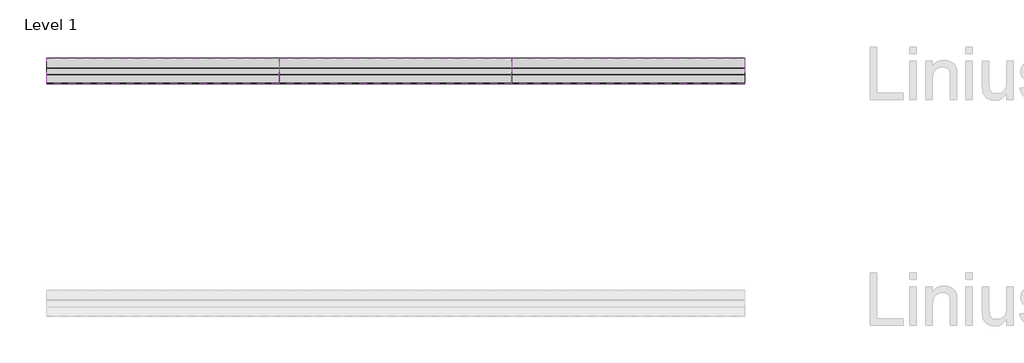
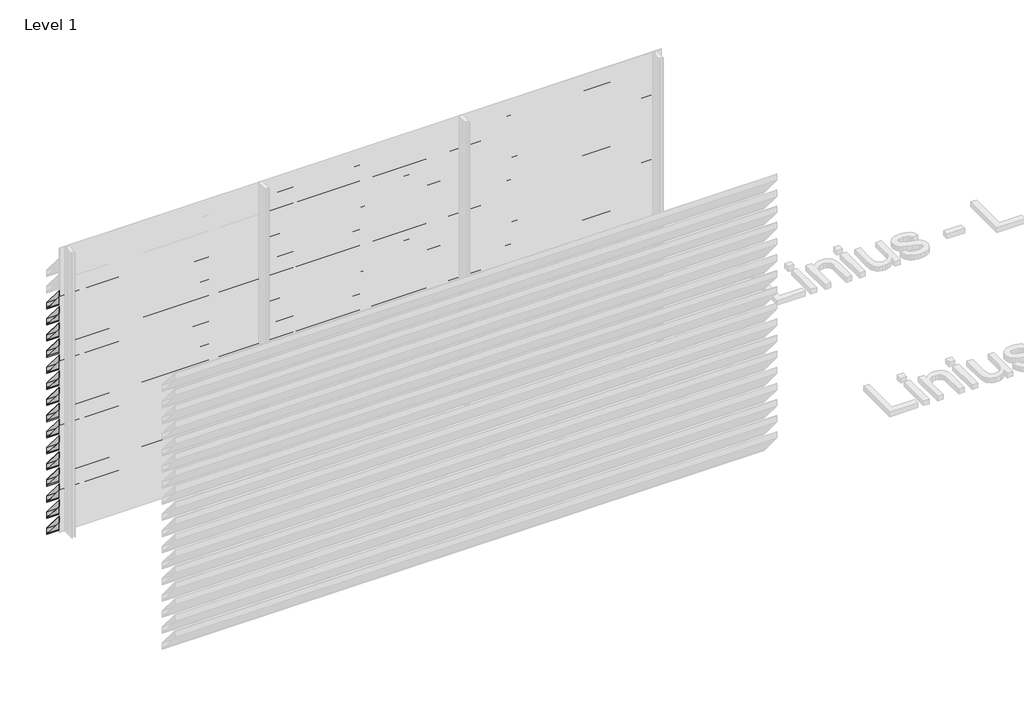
# One storey, part 11 of 121: 49 proxies.
"""IFC4 building model written with IfcOpenShell, lengths in millimetres."""

from ifc_helpers import new_model, si_unit, frame, origin, place, context, project, spatial, polyline, outline, extrude, element, save

model = new_model("IFC4")

# Units and contexts
model_context = context("Model", 3, world=origin())
ifc_project = project(units=[si_unit("LENGTHUNIT", "METRE", prefix="MILLI")], contexts=[model_context])

# Site, building, storey
site = spatial("IfcSite", under=ifc_project)
building = spatial("IfcBuilding", under=site)
storey = spatial("IfcBuildingStorey", under=building, Name="Level 1", Elevation=0.0)

# Proxies
placement = place(None, origin())
element("IfcBuildingElementProxy", 1, Name="Wall Sweeps", at=placement, inside=storey, context=model_context, shape_type="SweptSolid", body=[
    extrude(outline(polyline([(14205.0540136, 2291.0), (14205.0540136, 2222.0), (14202.5540136, 2223.1657691), (14202.5540136, 2236.7059843), (14185.8041465, 2256.6676986), (14175.1189071, 2256.6676986), (13983.0540136, 2485.5617253), (13983.0540136, 2550.0), (13987.7272091, 2550.0), (14205.0540136, 2291.0)]), holes=[polyline([(13986.8412246, 2548.1), (13984.9540136, 2548.1), (13984.9540136, 2486.2532688), (14176.0048916, 2258.5676986), (14186.6901311, 2258.5676986), (14203.1540136, 2238.9468074), (14203.1540136, 2290.3084566), (13986.8412246, 2548.1)])]), frame((466.6208097, 0.0, 0.0), z_axis=(1.0, 0.0, 0.0), x_axis=(0.0, 1.0, 0.0)), (0.0, 0.0, 1.0), 2000.0),
])
element("IfcBuildingElementProxy", 2, Name="Wall Sweeps", at=placement, inside=storey, context=model_context, shape_type="SweptSolid", body=[
    extrude(outline(polyline([(14205.0540136, 2121.0), (14205.0540136, 2052.0), (14202.5540136, 2053.1657691), (14202.5540136, 2066.7059843), (14185.8041465, 2086.6676986), (14175.1189071, 2086.6676986), (13983.0540136, 2315.5617253), (13983.0540136, 2380.0), (13987.7272091, 2380.0), (14205.0540136, 2121.0)]), holes=[polyline([(13986.8412246, 2378.1), (13984.9540136, 2378.1), (13984.9540136, 2316.2532688), (14176.0048916, 2088.5676986), (14186.6901311, 2088.5676986), (14203.1540136, 2068.9468074), (14203.1540136, 2120.3084566), (13986.8412246, 2378.1)])]), frame((466.6208097, 0.0, 0.0), z_axis=(1.0, 0.0, 0.0), x_axis=(0.0, 1.0, 0.0)), (0.0, 0.0, 1.0), 2000.0),
])
element("IfcBuildingElementProxy", 3, Name="Wall Sweeps", at=placement, inside=storey, context=model_context, shape_type="SweptSolid", body=[
    extrude(outline(polyline([(14205.0540136, 1951.0), (14205.0540136, 1882.0), (14202.5540136, 1883.1657691), (14202.5540136, 1896.7059843), (14185.8041465, 1916.6676986), (14175.1189071, 1916.6676986), (13983.0540136, 2145.5617253), (13983.0540136, 2210.0), (13987.7272091, 2210.0), (14205.0540136, 1951.0)]), holes=[polyline([(13986.8412246, 2208.1), (13984.9540136, 2208.1), (13984.9540136, 2146.2532688), (14176.0048916, 1918.5676986), (14186.6901311, 1918.5676986), (14203.1540136, 1898.9468074), (14203.1540136, 1950.3084566), (13986.8412246, 2208.1)])]), frame((466.6208097, 0.0, 0.0), z_axis=(1.0, 0.0, 0.0), x_axis=(0.0, 1.0, 0.0)), (0.0, 0.0, 1.0), 2000.0),
])
element("IfcBuildingElementProxy", 4, Name="Wall Sweeps", at=placement, inside=storey, context=model_context, shape_type="SweptSolid", body=[
    extrude(outline(polyline([(14205.0540136, 1781.0), (14205.0540136, 1712.0), (14202.5540136, 1713.1657691), (14202.5540136, 1726.7059843), (14185.8041465, 1746.6676986), (14175.1189071, 1746.6676986), (13983.0540136, 1975.5617253), (13983.0540136, 2040.0), (13987.7272091, 2040.0), (14205.0540136, 1781.0)]), holes=[polyline([(13986.8412246, 2038.1), (13984.9540136, 2038.1), (13984.9540136, 1976.2532688), (14176.0048916, 1748.5676986), (14186.6901311, 1748.5676986), (14203.1540136, 1728.9468074), (14203.1540136, 1780.3084566), (13986.8412246, 2038.1)])]), frame((466.6208097, 0.0, 0.0), z_axis=(1.0, 0.0, 0.0), x_axis=(0.0, 1.0, 0.0)), (0.0, 0.0, 1.0), 2000.0),
])
element("IfcBuildingElementProxy", 5, Name="Wall Sweeps", at=placement, inside=storey, context=model_context, shape_type="SweptSolid", body=[
    extrude(outline(polyline([(14205.0540136, 1611.0), (14205.0540136, 1542.0), (14202.5540136, 1543.1657691), (14202.5540136, 1556.7059843), (14185.8041465, 1576.6676986), (14175.1189071, 1576.6676986), (13983.0540136, 1805.5617253), (13983.0540136, 1870.0), (13987.7272091, 1870.0), (14205.0540136, 1611.0)]), holes=[polyline([(13986.8412246, 1868.1), (13984.9540136, 1868.1), (13984.9540136, 1806.2532688), (14176.0048916, 1578.5676986), (14186.6901311, 1578.5676986), (14203.1540136, 1558.9468074), (14203.1540136, 1610.3084566), (13986.8412246, 1868.1)])]), frame((466.6208097, 0.0, 0.0), z_axis=(1.0, 0.0, 0.0), x_axis=(0.0, 1.0, 0.0)), (0.0, 0.0, 1.0), 2000.0),
])
element("IfcBuildingElementProxy", 6, Name="Wall Sweeps", at=placement, inside=storey, context=model_context, shape_type="SweptSolid", body=[
    extrude(outline(polyline([(14205.0540136, 1441.0), (14205.0540136, 1372.0), (14202.5540136, 1373.1657691), (14202.5540136, 1386.7059843), (14185.8041465, 1406.6676986), (14175.1189071, 1406.6676986), (13983.0540136, 1635.5617253), (13983.0540136, 1700.0), (13987.7272091, 1700.0), (14205.0540136, 1441.0)]), holes=[polyline([(13986.8412246, 1698.1), (13984.9540136, 1698.1), (13984.9540136, 1636.2532688), (14176.0048916, 1408.5676986), (14186.6901311, 1408.5676986), (14203.1540136, 1388.9468074), (14203.1540136, 1440.3084566), (13986.8412246, 1698.1)])]), frame((466.6208097, 0.0, 0.0), z_axis=(1.0, 0.0, 0.0), x_axis=(0.0, 1.0, 0.0)), (0.0, 0.0, 1.0), 2000.0),
])
element("IfcBuildingElementProxy", 7, Name="Wall Sweeps", at=placement, inside=storey, context=model_context, shape_type="SweptSolid", body=[
    extrude(outline(polyline([(14205.0540136, 1271.0), (14205.0540136, 1202.0), (14202.5540136, 1203.1657691), (14202.5540136, 1216.7059843), (14185.8041465, 1236.6676986), (14175.1189071, 1236.6676986), (13983.0540136, 1465.5617253), (13983.0540136, 1530.0), (13987.7272091, 1530.0), (14205.0540136, 1271.0)]), holes=[polyline([(13986.8412246, 1528.1), (13984.9540136, 1528.1), (13984.9540136, 1466.2532688), (14176.0048916, 1238.5676986), (14186.6901311, 1238.5676986), (14203.1540136, 1218.9468074), (14203.1540136, 1270.3084566), (13986.8412246, 1528.1)])]), frame((466.6208097, 0.0, 0.0), z_axis=(1.0, 0.0, 0.0), x_axis=(0.0, 1.0, 0.0)), (0.0, 0.0, 1.0), 2000.0),
])
element("IfcBuildingElementProxy", 8, Name="Wall Sweeps", at=placement, inside=storey, context=model_context, shape_type="SweptSolid", body=[
    extrude(outline(polyline([(14205.0540136, 1101.0), (14205.0540136, 1032.0), (14202.5540136, 1033.1657691), (14202.5540136, 1046.7059843), (14185.8041465, 1066.6676986), (14175.1189071, 1066.6676986), (13983.0540136, 1295.5617253), (13983.0540136, 1360.0), (13987.7272091, 1360.0), (14205.0540136, 1101.0)]), holes=[polyline([(13986.8412246, 1358.1), (13984.9540136, 1358.1), (13984.9540136, 1296.2532688), (14176.0048916, 1068.5676986), (14186.6901311, 1068.5676986), (14203.1540136, 1048.9468074), (14203.1540136, 1100.3084566), (13986.8412246, 1358.1)])]), frame((466.6208097, 0.0, 0.0), z_axis=(1.0, 0.0, 0.0), x_axis=(0.0, 1.0, 0.0)), (0.0, 0.0, 1.0), 2000.0),
])
element("IfcBuildingElementProxy", 9, Name="Wall Sweeps", at=placement, inside=storey, context=model_context, shape_type="SweptSolid", body=[
    extrude(outline(polyline([(14205.0540136, 931.0), (14205.0540136, 862.0), (14202.5540136, 863.1657691), (14202.5540136, 876.7059843), (14185.8041465, 896.6676986), (14175.1189071, 896.6676986), (13983.0540136, 1125.5617253), (13983.0540136, 1190.0), (13987.7272091, 1190.0), (14205.0540136, 931.0)]), holes=[polyline([(13986.8412246, 1188.1), (13984.9540136, 1188.1), (13984.9540136, 1126.2532688), (14176.0048916, 898.5676986), (14186.6901311, 898.5676986), (14203.1540136, 878.9468074), (14203.1540136, 930.3084566), (13986.8412246, 1188.1)])]), frame((466.6208097, 0.0, 0.0), z_axis=(1.0, 0.0, 0.0), x_axis=(0.0, 1.0, 0.0)), (0.0, 0.0, 1.0), 2000.0),
])
element("IfcBuildingElementProxy", 10, Name="Wall Sweeps", at=placement, inside=storey, context=model_context, shape_type="SweptSolid", body=[
    extrude(outline(polyline([(14205.0540136, 761.0), (14205.0540136, 692.0), (14202.5540136, 693.1657691), (14202.5540136, 706.7059843), (14185.8041465, 726.6676986), (14175.1189071, 726.6676986), (13983.0540136, 955.5617253), (13983.0540136, 1020.0), (13987.7272091, 1020.0), (14205.0540136, 761.0)]), holes=[polyline([(13986.8412246, 1018.1), (13984.9540136, 1018.1), (13984.9540136, 956.2532688), (14176.0048916, 728.5676986), (14186.6901311, 728.5676986), (14203.1540136, 708.9468074), (14203.1540136, 760.3084566), (13986.8412246, 1018.1)])]), frame((466.6208097, 0.0, 0.0), z_axis=(1.0, 0.0, 0.0), x_axis=(0.0, 1.0, 0.0)), (0.0, 0.0, 1.0), 2000.0),
])
element("IfcBuildingElementProxy", 11, Name="Wall Sweeps", at=placement, inside=storey, context=model_context, shape_type="SweptSolid", body=[
    extrude(outline(polyline([(14205.0540136, 591.0), (14205.0540136, 522.0), (14202.5540136, 523.1657691), (14202.5540136, 536.7059843), (14185.8041465, 556.6676986), (14175.1189071, 556.6676986), (13983.0540136, 785.5617253), (13983.0540136, 850.0), (13987.7272091, 850.0), (14205.0540136, 591.0)]), holes=[polyline([(13986.8412246, 848.1), (13984.9540136, 848.1), (13984.9540136, 786.2532688), (14176.0048916, 558.5676986), (14186.6901311, 558.5676986), (14203.1540136, 538.9468074), (14203.1540136, 590.3084566), (13986.8412246, 848.1)])]), frame((466.6208097, 0.0, 0.0), z_axis=(1.0, 0.0, 0.0), x_axis=(0.0, 1.0, 0.0)), (0.0, 0.0, 1.0), 2000.0),
])
element("IfcBuildingElementProxy", 12, Name="Wall Sweeps", at=placement, inside=storey, context=model_context, shape_type="SweptSolid", body=[
    extrude(outline(polyline([(14205.0540136, 421.0), (14205.0540136, 352.0), (14202.5540136, 353.1657691), (14202.5540136, 366.7059843), (14185.8041465, 386.6676986), (14175.1189071, 386.6676986), (13983.0540136, 615.5617253), (13983.0540136, 680.0), (13987.7272091, 680.0), (14205.0540136, 421.0)]), holes=[polyline([(13986.8412246, 678.1), (13984.9540136, 678.1), (13984.9540136, 616.2532688), (14176.0048916, 388.5676986), (14186.6901311, 388.5676986), (14203.1540136, 368.9468074), (14203.1540136, 420.3084566), (13986.8412246, 678.1)])]), frame((466.6208097, 0.0, 0.0), z_axis=(1.0, 0.0, 0.0), x_axis=(0.0, 1.0, 0.0)), (0.0, 0.0, 1.0), 2000.0),
])
element("IfcBuildingElementProxy", 13, Name="Wall Sweeps", at=placement, inside=storey, context=model_context, shape_type="SweptSolid", body=[
    extrude(outline(polyline([(14205.0540136, 251.0), (14205.0540136, 182.0), (14202.5540136, 183.1657691), (14202.5540136, 196.7059843), (14185.8041465, 216.6676986), (14175.1189071, 216.6676986), (13983.0540136, 445.5617253), (13983.0540136, 510.0), (13987.7272091, 510.0), (14205.0540136, 251.0)]), holes=[polyline([(13986.8412246, 508.1), (13984.9540136, 508.1), (13984.9540136, 446.2532688), (14176.0048916, 218.5676986), (14186.6901311, 218.5676986), (14203.1540136, 198.9468074), (14203.1540136, 250.3084566), (13986.8412246, 508.1)])]), frame((466.6208097, 0.0, 0.0), z_axis=(1.0, 0.0, 0.0), x_axis=(0.0, 1.0, 0.0)), (0.0, 0.0, 1.0), 2000.0),
])
element("IfcBuildingElementProxy", 14, Name="Wall Sweeps", at=placement, inside=storey, context=model_context, shape_type="SweptSolid", body=[
    extrude(outline(polyline([(14205.0540136, 81.0), (14205.0540136, 12.0), (14202.5540136, 13.1657691), (14202.5540136, 26.7059843), (14185.8041465, 46.6676986), (14175.1189071, 46.6676986), (13983.0540136, 275.5617253), (13983.0540136, 340.0), (13987.7272091, 340.0), (14205.0540136, 81.0)]), holes=[polyline([(13986.8412246, 338.1), (13984.9540136, 338.1), (13984.9540136, 276.2532688), (14176.0048916, 48.5676986), (14186.6901311, 48.5676986), (14203.1540136, 28.9468074), (14203.1540136, 80.3084566), (13986.8412246, 338.1)])]), frame((466.6208097, 0.0, 0.0), z_axis=(1.0, 0.0, 0.0), x_axis=(0.0, 1.0, 0.0)), (0.0, 0.0, 1.0), 2000.0),
])
element("IfcBuildingElementProxy", 15, Name="Wall Sweeps", at=placement, inside=storey, context=model_context, shape_type="SweptSolid", body=[
    extrude(outline(polyline([(14205.0540136, -89.0), (14205.0540136, -158.0), (14202.5540136, -156.8342309), (14202.5540136, -143.2940157), (14185.8041465, -123.3323014), (14175.1189071, -123.3323014), (13983.0540136, 105.5617253), (13983.0540136, 170.0), (13987.7272091, 170.0), (14205.0540136, -89.0)]), holes=[polyline([(13986.8412246, 168.1), (13984.9540136, 168.1), (13984.9540136, 106.2532688), (14176.0048916, -121.4323014), (14186.6901311, -121.4323014), (14203.1540136, -141.0531926), (14203.1540136, -89.6915434), (13986.8412246, 168.1)])]), frame((466.6208097, 0.0, 0.0), z_axis=(1.0, 0.0, 0.0), x_axis=(0.0, 1.0, 0.0)), (0.0, 0.0, 1.0), 2000.0),
])
element("IfcBuildingElementProxy", 16, Name="Wall Sweeps", at=placement, inside=storey, context=model_context, shape_type="SweptSolid", body=[
    extrude(outline(polyline([(14205.0540136, 2631.0), (14205.0540136, 2562.0), (14202.5540136, 2563.1657691), (14202.5540136, 2576.7059843), (14185.8041465, 2596.6676986), (14175.1189071, 2596.6676986), (13983.0540136, 2825.5617253), (13983.0540136, 2890.0), (13987.7272091, 2890.0), (14205.0540136, 2631.0)]), holes=[polyline([(13986.8412246, 2888.1), (13984.9540136, 2888.1), (13984.9540136, 2826.2532688), (14176.0048916, 2598.5676986), (14186.6901311, 2598.5676986), (14203.1540136, 2578.9468074), (14203.1540136, 2630.3084566), (13986.8412246, 2888.1)])]), frame((2466.6208097, 0.0, 0.0), z_axis=(1.0, 0.0, 0.0), x_axis=(0.0, 1.0, 0.0)), (0.0, 0.0, 1.0), 2000.0),
])
element("IfcBuildingElementProxy", 17, Name="Wall Sweeps", at=placement, inside=storey, context=model_context, shape_type="SweptSolid", body=[
    extrude(outline(polyline([(14205.0540136, 2461.0), (14205.0540136, 2392.0), (14202.5540136, 2393.1657691), (14202.5540136, 2406.7059843), (14185.8041465, 2426.6676986), (14175.1189071, 2426.6676986), (13983.0540136, 2655.5617253), (13983.0540136, 2720.0), (13987.7272091, 2720.0), (14205.0540136, 2461.0)]), holes=[polyline([(13986.8412246, 2718.1), (13984.9540136, 2718.1), (13984.9540136, 2656.2532688), (14176.0048916, 2428.5676986), (14186.6901311, 2428.5676986), (14203.1540136, 2408.9468074), (14203.1540136, 2460.3084566), (13986.8412246, 2718.1)])]), frame((2466.6208097, 0.0, 0.0), z_axis=(1.0, 0.0, 0.0), x_axis=(0.0, 1.0, 0.0)), (0.0, 0.0, 1.0), 2000.0),
])
element("IfcBuildingElementProxy", 18, Name="Wall Sweeps", at=placement, inside=storey, context=model_context, shape_type="SweptSolid", body=[
    extrude(outline(polyline([(14205.0540136, 2291.0), (14205.0540136, 2222.0), (14202.5540136, 2223.1657691), (14202.5540136, 2236.7059843), (14185.8041465, 2256.6676986), (14175.1189071, 2256.6676986), (13983.0540136, 2485.5617253), (13983.0540136, 2550.0), (13987.7272091, 2550.0), (14205.0540136, 2291.0)]), holes=[polyline([(13986.8412246, 2548.1), (13984.9540136, 2548.1), (13984.9540136, 2486.2532688), (14176.0048916, 2258.5676986), (14186.6901311, 2258.5676986), (14203.1540136, 2238.9468074), (14203.1540136, 2290.3084566), (13986.8412246, 2548.1)])]), frame((2466.6208097, 0.0, 0.0), z_axis=(1.0, 0.0, 0.0), x_axis=(0.0, 1.0, 0.0)), (0.0, 0.0, 1.0), 2000.0),
])
element("IfcBuildingElementProxy", 19, Name="Wall Sweeps", at=placement, inside=storey, context=model_context, shape_type="SweptSolid", body=[
    extrude(outline(polyline([(14205.0540136, 2121.0), (14205.0540136, 2052.0), (14202.5540136, 2053.1657691), (14202.5540136, 2066.7059843), (14185.8041465, 2086.6676986), (14175.1189071, 2086.6676986), (13983.0540136, 2315.5617253), (13983.0540136, 2380.0), (13987.7272091, 2380.0), (14205.0540136, 2121.0)]), holes=[polyline([(13986.8412246, 2378.1), (13984.9540136, 2378.1), (13984.9540136, 2316.2532688), (14176.0048916, 2088.5676986), (14186.6901311, 2088.5676986), (14203.1540136, 2068.9468074), (14203.1540136, 2120.3084566), (13986.8412246, 2378.1)])]), frame((2466.6208097, 0.0, 0.0), z_axis=(1.0, 0.0, 0.0), x_axis=(0.0, 1.0, 0.0)), (0.0, 0.0, 1.0), 2000.0),
])
element("IfcBuildingElementProxy", 20, Name="Wall Sweeps", at=placement, inside=storey, context=model_context, shape_type="SweptSolid", body=[
    extrude(outline(polyline([(14205.0540136, 1951.0), (14205.0540136, 1882.0), (14202.5540136, 1883.1657691), (14202.5540136, 1896.7059843), (14185.8041465, 1916.6676986), (14175.1189071, 1916.6676986), (13983.0540136, 2145.5617253), (13983.0540136, 2210.0), (13987.7272091, 2210.0), (14205.0540136, 1951.0)]), holes=[polyline([(13986.8412246, 2208.1), (13984.9540136, 2208.1), (13984.9540136, 2146.2532688), (14176.0048916, 1918.5676986), (14186.6901311, 1918.5676986), (14203.1540136, 1898.9468074), (14203.1540136, 1950.3084566), (13986.8412246, 2208.1)])]), frame((2466.6208097, 0.0, 0.0), z_axis=(1.0, 0.0, 0.0), x_axis=(0.0, 1.0, 0.0)), (0.0, 0.0, 1.0), 2000.0),
])
element("IfcBuildingElementProxy", 21, Name="Wall Sweeps", at=placement, inside=storey, context=model_context, shape_type="SweptSolid", body=[
    extrude(outline(polyline([(14205.0540136, 1781.0), (14205.0540136, 1712.0), (14202.5540136, 1713.1657691), (14202.5540136, 1726.7059843), (14185.8041465, 1746.6676986), (14175.1189071, 1746.6676986), (13983.0540136, 1975.5617253), (13983.0540136, 2040.0), (13987.7272091, 2040.0), (14205.0540136, 1781.0)]), holes=[polyline([(13986.8412246, 2038.1), (13984.9540136, 2038.1), (13984.9540136, 1976.2532688), (14176.0048916, 1748.5676986), (14186.6901311, 1748.5676986), (14203.1540136, 1728.9468074), (14203.1540136, 1780.3084566), (13986.8412246, 2038.1)])]), frame((2466.6208097, 0.0, 0.0), z_axis=(1.0, 0.0, 0.0), x_axis=(0.0, 1.0, 0.0)), (0.0, 0.0, 1.0), 2000.0),
])
element("IfcBuildingElementProxy", 22, Name="Wall Sweeps", at=placement, inside=storey, context=model_context, shape_type="SweptSolid", body=[
    extrude(outline(polyline([(14205.0540136, 1611.0), (14205.0540136, 1542.0), (14202.5540136, 1543.1657691), (14202.5540136, 1556.7059843), (14185.8041465, 1576.6676986), (14175.1189071, 1576.6676986), (13983.0540136, 1805.5617253), (13983.0540136, 1870.0), (13987.7272091, 1870.0), (14205.0540136, 1611.0)]), holes=[polyline([(13986.8412246, 1868.1), (13984.9540136, 1868.1), (13984.9540136, 1806.2532688), (14176.0048916, 1578.5676986), (14186.6901311, 1578.5676986), (14203.1540136, 1558.9468074), (14203.1540136, 1610.3084566), (13986.8412246, 1868.1)])]), frame((2466.6208097, 0.0, 0.0), z_axis=(1.0, 0.0, 0.0), x_axis=(0.0, 1.0, 0.0)), (0.0, 0.0, 1.0), 2000.0),
])
element("IfcBuildingElementProxy", 23, Name="Wall Sweeps", at=placement, inside=storey, context=model_context, shape_type="SweptSolid", body=[
    extrude(outline(polyline([(14205.0540136, 1441.0), (14205.0540136, 1372.0), (14202.5540136, 1373.1657691), (14202.5540136, 1386.7059843), (14185.8041465, 1406.6676986), (14175.1189071, 1406.6676986), (13983.0540136, 1635.5617253), (13983.0540136, 1700.0), (13987.7272091, 1700.0), (14205.0540136, 1441.0)]), holes=[polyline([(13986.8412246, 1698.1), (13984.9540136, 1698.1), (13984.9540136, 1636.2532688), (14176.0048916, 1408.5676986), (14186.6901311, 1408.5676986), (14203.1540136, 1388.9468074), (14203.1540136, 1440.3084566), (13986.8412246, 1698.1)])]), frame((2466.6208097, 0.0, 0.0), z_axis=(1.0, 0.0, 0.0), x_axis=(0.0, 1.0, 0.0)), (0.0, 0.0, 1.0), 2000.0),
])
element("IfcBuildingElementProxy", 24, Name="Wall Sweeps", at=placement, inside=storey, context=model_context, shape_type="SweptSolid", body=[
    extrude(outline(polyline([(14205.0540136, 1271.0), (14205.0540136, 1202.0), (14202.5540136, 1203.1657691), (14202.5540136, 1216.7059843), (14185.8041465, 1236.6676986), (14175.1189071, 1236.6676986), (13983.0540136, 1465.5617253), (13983.0540136, 1530.0), (13987.7272091, 1530.0), (14205.0540136, 1271.0)]), holes=[polyline([(13986.8412246, 1528.1), (13984.9540136, 1528.1), (13984.9540136, 1466.2532688), (14176.0048916, 1238.5676986), (14186.6901311, 1238.5676986), (14203.1540136, 1218.9468074), (14203.1540136, 1270.3084566), (13986.8412246, 1528.1)])]), frame((2466.6208097, 0.0, 0.0), z_axis=(1.0, 0.0, 0.0), x_axis=(0.0, 1.0, 0.0)), (0.0, 0.0, 1.0), 2000.0),
])
element("IfcBuildingElementProxy", 25, Name="Wall Sweeps", at=placement, inside=storey, context=model_context, shape_type="SweptSolid", body=[
    extrude(outline(polyline([(14205.0540136, 1101.0), (14205.0540136, 1032.0), (14202.5540136, 1033.1657691), (14202.5540136, 1046.7059843), (14185.8041465, 1066.6676986), (14175.1189071, 1066.6676986), (13983.0540136, 1295.5617253), (13983.0540136, 1360.0), (13987.7272091, 1360.0), (14205.0540136, 1101.0)]), holes=[polyline([(13986.8412246, 1358.1), (13984.9540136, 1358.1), (13984.9540136, 1296.2532688), (14176.0048916, 1068.5676986), (14186.6901311, 1068.5676986), (14203.1540136, 1048.9468074), (14203.1540136, 1100.3084566), (13986.8412246, 1358.1)])]), frame((2466.6208097, 0.0, 0.0), z_axis=(1.0, 0.0, 0.0), x_axis=(0.0, 1.0, 0.0)), (0.0, 0.0, 1.0), 2000.0),
])
element("IfcBuildingElementProxy", 26, Name="Wall Sweeps", at=placement, inside=storey, context=model_context, shape_type="SweptSolid", body=[
    extrude(outline(polyline([(14205.0540136, 931.0), (14205.0540136, 862.0), (14202.5540136, 863.1657691), (14202.5540136, 876.7059843), (14185.8041465, 896.6676986), (14175.1189071, 896.6676986), (13983.0540136, 1125.5617253), (13983.0540136, 1190.0), (13987.7272091, 1190.0), (14205.0540136, 931.0)]), holes=[polyline([(13986.8412246, 1188.1), (13984.9540136, 1188.1), (13984.9540136, 1126.2532688), (14176.0048916, 898.5676986), (14186.6901311, 898.5676986), (14203.1540136, 878.9468074), (14203.1540136, 930.3084566), (13986.8412246, 1188.1)])]), frame((2466.6208097, 0.0, 0.0), z_axis=(1.0, 0.0, 0.0), x_axis=(0.0, 1.0, 0.0)), (0.0, 0.0, 1.0), 2000.0),
])
element("IfcBuildingElementProxy", 27, Name="Wall Sweeps", at=placement, inside=storey, context=model_context, shape_type="SweptSolid", body=[
    extrude(outline(polyline([(14205.0540136, 761.0), (14205.0540136, 692.0), (14202.5540136, 693.1657691), (14202.5540136, 706.7059843), (14185.8041465, 726.6676986), (14175.1189071, 726.6676986), (13983.0540136, 955.5617253), (13983.0540136, 1020.0), (13987.7272091, 1020.0), (14205.0540136, 761.0)]), holes=[polyline([(13986.8412246, 1018.1), (13984.9540136, 1018.1), (13984.9540136, 956.2532688), (14176.0048916, 728.5676986), (14186.6901311, 728.5676986), (14203.1540136, 708.9468074), (14203.1540136, 760.3084566), (13986.8412246, 1018.1)])]), frame((2466.6208097, 0.0, 0.0), z_axis=(1.0, 0.0, 0.0), x_axis=(0.0, 1.0, 0.0)), (0.0, 0.0, 1.0), 2000.0),
])
element("IfcBuildingElementProxy", 28, Name="Wall Sweeps", at=placement, inside=storey, context=model_context, shape_type="SweptSolid", body=[
    extrude(outline(polyline([(14205.0540136, 591.0), (14205.0540136, 522.0), (14202.5540136, 523.1657691), (14202.5540136, 536.7059843), (14185.8041465, 556.6676986), (14175.1189071, 556.6676986), (13983.0540136, 785.5617253), (13983.0540136, 850.0), (13987.7272091, 850.0), (14205.0540136, 591.0)]), holes=[polyline([(13986.8412246, 848.1), (13984.9540136, 848.1), (13984.9540136, 786.2532688), (14176.0048916, 558.5676986), (14186.6901311, 558.5676986), (14203.1540136, 538.9468074), (14203.1540136, 590.3084566), (13986.8412246, 848.1)])]), frame((2466.6208097, 0.0, 0.0), z_axis=(1.0, 0.0, 0.0), x_axis=(0.0, 1.0, 0.0)), (0.0, 0.0, 1.0), 2000.0),
])
element("IfcBuildingElementProxy", 29, Name="Wall Sweeps", at=placement, inside=storey, context=model_context, shape_type="SweptSolid", body=[
    extrude(outline(polyline([(14205.0540136, 421.0), (14205.0540136, 352.0), (14202.5540136, 353.1657691), (14202.5540136, 366.7059843), (14185.8041465, 386.6676986), (14175.1189071, 386.6676986), (13983.0540136, 615.5617253), (13983.0540136, 680.0), (13987.7272091, 680.0), (14205.0540136, 421.0)]), holes=[polyline([(13986.8412246, 678.1), (13984.9540136, 678.1), (13984.9540136, 616.2532688), (14176.0048916, 388.5676986), (14186.6901311, 388.5676986), (14203.1540136, 368.9468074), (14203.1540136, 420.3084566), (13986.8412246, 678.1)])]), frame((2466.6208097, 0.0, 0.0), z_axis=(1.0, 0.0, 0.0), x_axis=(0.0, 1.0, 0.0)), (0.0, 0.0, 1.0), 2000.0),
])
element("IfcBuildingElementProxy", 30, Name="Wall Sweeps", at=placement, inside=storey, context=model_context, shape_type="SweptSolid", body=[
    extrude(outline(polyline([(14205.0540136, 251.0), (14205.0540136, 182.0), (14202.5540136, 183.1657691), (14202.5540136, 196.7059843), (14185.8041465, 216.6676986), (14175.1189071, 216.6676986), (13983.0540136, 445.5617253), (13983.0540136, 510.0), (13987.7272091, 510.0), (14205.0540136, 251.0)]), holes=[polyline([(13986.8412246, 508.1), (13984.9540136, 508.1), (13984.9540136, 446.2532688), (14176.0048916, 218.5676986), (14186.6901311, 218.5676986), (14203.1540136, 198.9468074), (14203.1540136, 250.3084566), (13986.8412246, 508.1)])]), frame((2466.6208097, 0.0, 0.0), z_axis=(1.0, 0.0, 0.0), x_axis=(0.0, 1.0, 0.0)), (0.0, 0.0, 1.0), 2000.0),
])
element("IfcBuildingElementProxy", 31, Name="Wall Sweeps", at=placement, inside=storey, context=model_context, shape_type="SweptSolid", body=[
    extrude(outline(polyline([(14205.0540136, 81.0), (14205.0540136, 12.0), (14202.5540136, 13.1657691), (14202.5540136, 26.7059843), (14185.8041465, 46.6676986), (14175.1189071, 46.6676986), (13983.0540136, 275.5617253), (13983.0540136, 340.0), (13987.7272091, 340.0), (14205.0540136, 81.0)]), holes=[polyline([(13986.8412246, 338.1), (13984.9540136, 338.1), (13984.9540136, 276.2532688), (14176.0048916, 48.5676986), (14186.6901311, 48.5676986), (14203.1540136, 28.9468074), (14203.1540136, 80.3084566), (13986.8412246, 338.1)])]), frame((2466.6208097, 0.0, 0.0), z_axis=(1.0, 0.0, 0.0), x_axis=(0.0, 1.0, 0.0)), (0.0, 0.0, 1.0), 2000.0),
])
element("IfcBuildingElementProxy", 32, Name="Wall Sweeps", at=placement, inside=storey, context=model_context, shape_type="SweptSolid", body=[
    extrude(outline(polyline([(14205.0540136, -89.0), (14205.0540136, -158.0), (14202.5540136, -156.8342309), (14202.5540136, -143.2940157), (14185.8041465, -123.3323014), (14175.1189071, -123.3323014), (13983.0540136, 105.5617253), (13983.0540136, 170.0), (13987.7272091, 170.0), (14205.0540136, -89.0)]), holes=[polyline([(13986.8412246, 168.1), (13984.9540136, 168.1), (13984.9540136, 106.2532688), (14176.0048916, -121.4323014), (14186.6901311, -121.4323014), (14203.1540136, -141.0531926), (14203.1540136, -89.6915434), (13986.8412246, 168.1)])]), frame((2466.6208097, 0.0, 0.0), z_axis=(1.0, 0.0, 0.0), x_axis=(0.0, 1.0, 0.0)), (0.0, 0.0, 1.0), 2000.0),
])
element("IfcBuildingElementProxy", 33, Name="Wall Sweeps", at=placement, inside=storey, context=model_context, shape_type="SweptSolid", body=[
    extrude(outline(polyline([(14205.0540136, 2631.0), (14205.0540136, 2562.0), (14202.5540136, 2563.1657691), (14202.5540136, 2576.7059843), (14185.8041465, 2596.6676986), (14175.1189071, 2596.6676986), (13983.0540136, 2825.5617253), (13983.0540136, 2890.0), (13987.7272091, 2890.0), (14205.0540136, 2631.0)]), holes=[polyline([(13986.8412246, 2888.1), (13984.9540136, 2888.1), (13984.9540136, 2826.2532688), (14176.0048916, 2598.5676986), (14186.6901311, 2598.5676986), (14203.1540136, 2578.9468074), (14203.1540136, 2630.3084566), (13986.8412246, 2888.1)])]), frame((4466.6208097, 0.0, 0.0), z_axis=(1.0, 0.0, 0.0), x_axis=(0.0, 1.0, 0.0)), (0.0, 0.0, 1.0), 2000.0),
])
element("IfcBuildingElementProxy", 34, Name="Wall Sweeps", at=placement, inside=storey, context=model_context, shape_type="SweptSolid", body=[
    extrude(outline(polyline([(14205.0540136, 2461.0), (14205.0540136, 2392.0), (14202.5540136, 2393.1657691), (14202.5540136, 2406.7059843), (14185.8041465, 2426.6676986), (14175.1189071, 2426.6676986), (13983.0540136, 2655.5617253), (13983.0540136, 2720.0), (13987.7272091, 2720.0), (14205.0540136, 2461.0)]), holes=[polyline([(13986.8412246, 2718.1), (13984.9540136, 2718.1), (13984.9540136, 2656.2532688), (14176.0048916, 2428.5676986), (14186.6901311, 2428.5676986), (14203.1540136, 2408.9468074), (14203.1540136, 2460.3084566), (13986.8412246, 2718.1)])]), frame((4466.6208097, 0.0, 0.0), z_axis=(1.0, 0.0, 0.0), x_axis=(0.0, 1.0, 0.0)), (0.0, 0.0, 1.0), 2000.0),
])
element("IfcBuildingElementProxy", 35, Name="Wall Sweeps", at=placement, inside=storey, context=model_context, shape_type="SweptSolid", body=[
    extrude(outline(polyline([(14205.0540136, 2291.0), (14205.0540136, 2222.0), (14202.5540136, 2223.1657691), (14202.5540136, 2236.7059843), (14185.8041465, 2256.6676986), (14175.1189071, 2256.6676986), (13983.0540136, 2485.5617253), (13983.0540136, 2550.0), (13987.7272091, 2550.0), (14205.0540136, 2291.0)]), holes=[polyline([(13986.8412246, 2548.1), (13984.9540136, 2548.1), (13984.9540136, 2486.2532688), (14176.0048916, 2258.5676986), (14186.6901311, 2258.5676986), (14203.1540136, 2238.9468074), (14203.1540136, 2290.3084566), (13986.8412246, 2548.1)])]), frame((4466.6208097, 0.0, 0.0), z_axis=(1.0, 0.0, 0.0), x_axis=(0.0, 1.0, 0.0)), (0.0, 0.0, 1.0), 2000.0),
])
element("IfcBuildingElementProxy", 36, Name="Wall Sweeps", at=placement, inside=storey, context=model_context, shape_type="SweptSolid", body=[
    extrude(outline(polyline([(14205.0540136, 2121.0), (14205.0540136, 2052.0), (14202.5540136, 2053.1657691), (14202.5540136, 2066.7059843), (14185.8041465, 2086.6676986), (14175.1189071, 2086.6676986), (13983.0540136, 2315.5617253), (13983.0540136, 2380.0), (13987.7272091, 2380.0), (14205.0540136, 2121.0)]), holes=[polyline([(13986.8412246, 2378.1), (13984.9540136, 2378.1), (13984.9540136, 2316.2532688), (14176.0048916, 2088.5676986), (14186.6901311, 2088.5676986), (14203.1540136, 2068.9468074), (14203.1540136, 2120.3084566), (13986.8412246, 2378.1)])]), frame((4466.6208097, 0.0, 0.0), z_axis=(1.0, 0.0, 0.0), x_axis=(0.0, 1.0, 0.0)), (0.0, 0.0, 1.0), 2000.0),
])
element("IfcBuildingElementProxy", 37, Name="Wall Sweeps", at=placement, inside=storey, context=model_context, shape_type="SweptSolid", body=[
    extrude(outline(polyline([(14205.0540136, 1951.0), (14205.0540136, 1882.0), (14202.5540136, 1883.1657691), (14202.5540136, 1896.7059843), (14185.8041465, 1916.6676986), (14175.1189071, 1916.6676986), (13983.0540136, 2145.5617253), (13983.0540136, 2210.0), (13987.7272091, 2210.0), (14205.0540136, 1951.0)]), holes=[polyline([(13986.8412246, 2208.1), (13984.9540136, 2208.1), (13984.9540136, 2146.2532688), (14176.0048916, 1918.5676986), (14186.6901311, 1918.5676986), (14203.1540136, 1898.9468074), (14203.1540136, 1950.3084566), (13986.8412246, 2208.1)])]), frame((4466.6208097, 0.0, 0.0), z_axis=(1.0, 0.0, 0.0), x_axis=(0.0, 1.0, 0.0)), (0.0, 0.0, 1.0), 2000.0),
])
element("IfcBuildingElementProxy", 38, Name="Wall Sweeps", at=placement, inside=storey, context=model_context, shape_type="SweptSolid", body=[
    extrude(outline(polyline([(14205.0540136, 1781.0), (14205.0540136, 1712.0), (14202.5540136, 1713.1657691), (14202.5540136, 1726.7059843), (14185.8041465, 1746.6676986), (14175.1189071, 1746.6676986), (13983.0540136, 1975.5617253), (13983.0540136, 2040.0), (13987.7272091, 2040.0), (14205.0540136, 1781.0)]), holes=[polyline([(13986.8412246, 2038.1), (13984.9540136, 2038.1), (13984.9540136, 1976.2532688), (14176.0048916, 1748.5676986), (14186.6901311, 1748.5676986), (14203.1540136, 1728.9468074), (14203.1540136, 1780.3084566), (13986.8412246, 2038.1)])]), frame((4466.6208097, 0.0, 0.0), z_axis=(1.0, 0.0, 0.0), x_axis=(0.0, 1.0, 0.0)), (0.0, 0.0, 1.0), 2000.0),
])
element("IfcBuildingElementProxy", 39, Name="Wall Sweeps", at=placement, inside=storey, context=model_context, shape_type="SweptSolid", body=[
    extrude(outline(polyline([(14205.0540136, 1611.0), (14205.0540136, 1542.0), (14202.5540136, 1543.1657691), (14202.5540136, 1556.7059843), (14185.8041465, 1576.6676986), (14175.1189071, 1576.6676986), (13983.0540136, 1805.5617253), (13983.0540136, 1870.0), (13987.7272091, 1870.0), (14205.0540136, 1611.0)]), holes=[polyline([(13986.8412246, 1868.1), (13984.9540136, 1868.1), (13984.9540136, 1806.2532688), (14176.0048916, 1578.5676986), (14186.6901311, 1578.5676986), (14203.1540136, 1558.9468074), (14203.1540136, 1610.3084566), (13986.8412246, 1868.1)])]), frame((4466.6208097, 0.0, 0.0), z_axis=(1.0, 0.0, 0.0), x_axis=(0.0, 1.0, 0.0)), (0.0, 0.0, 1.0), 2000.0),
])
element("IfcBuildingElementProxy", 40, Name="Wall Sweeps", at=placement, inside=storey, context=model_context, shape_type="SweptSolid", body=[
    extrude(outline(polyline([(14205.0540136, 1441.0), (14205.0540136, 1372.0), (14202.5540136, 1373.1657691), (14202.5540136, 1386.7059843), (14185.8041465, 1406.6676986), (14175.1189071, 1406.6676986), (13983.0540136, 1635.5617253), (13983.0540136, 1700.0), (13987.7272091, 1700.0), (14205.0540136, 1441.0)]), holes=[polyline([(13986.8412246, 1698.1), (13984.9540136, 1698.1), (13984.9540136, 1636.2532688), (14176.0048916, 1408.5676986), (14186.6901311, 1408.5676986), (14203.1540136, 1388.9468074), (14203.1540136, 1440.3084566), (13986.8412246, 1698.1)])]), frame((4466.6208097, 0.0, 0.0), z_axis=(1.0, 0.0, 0.0), x_axis=(0.0, 1.0, 0.0)), (0.0, 0.0, 1.0), 2000.0),
])
element("IfcBuildingElementProxy", 41, Name="Wall Sweeps", at=placement, inside=storey, context=model_context, shape_type="SweptSolid", body=[
    extrude(outline(polyline([(14205.0540136, 1271.0), (14205.0540136, 1202.0), (14202.5540136, 1203.1657691), (14202.5540136, 1216.7059843), (14185.8041465, 1236.6676986), (14175.1189071, 1236.6676986), (13983.0540136, 1465.5617253), (13983.0540136, 1530.0), (13987.7272091, 1530.0), (14205.0540136, 1271.0)]), holes=[polyline([(13986.8412246, 1528.1), (13984.9540136, 1528.1), (13984.9540136, 1466.2532688), (14176.0048916, 1238.5676986), (14186.6901311, 1238.5676986), (14203.1540136, 1218.9468074), (14203.1540136, 1270.3084566), (13986.8412246, 1528.1)])]), frame((4466.6208097, 0.0, 0.0), z_axis=(1.0, 0.0, 0.0), x_axis=(0.0, 1.0, 0.0)), (0.0, 0.0, 1.0), 2000.0),
])
element("IfcBuildingElementProxy", 42, Name="Wall Sweeps", at=placement, inside=storey, context=model_context, shape_type="SweptSolid", body=[
    extrude(outline(polyline([(14205.0540136, 1101.0), (14205.0540136, 1032.0), (14202.5540136, 1033.1657691), (14202.5540136, 1046.7059843), (14185.8041465, 1066.6676986), (14175.1189071, 1066.6676986), (13983.0540136, 1295.5617253), (13983.0540136, 1360.0), (13987.7272091, 1360.0), (14205.0540136, 1101.0)]), holes=[polyline([(13986.8412246, 1358.1), (13984.9540136, 1358.1), (13984.9540136, 1296.2532688), (14176.0048916, 1068.5676986), (14186.6901311, 1068.5676986), (14203.1540136, 1048.9468074), (14203.1540136, 1100.3084566), (13986.8412246, 1358.1)])]), frame((4466.6208097, 0.0, 0.0), z_axis=(1.0, 0.0, 0.0), x_axis=(0.0, 1.0, 0.0)), (0.0, 0.0, 1.0), 2000.0),
])
element("IfcBuildingElementProxy", 43, Name="Wall Sweeps", at=placement, inside=storey, context=model_context, shape_type="SweptSolid", body=[
    extrude(outline(polyline([(14205.0540136, 931.0), (14205.0540136, 862.0), (14202.5540136, 863.1657691), (14202.5540136, 876.7059843), (14185.8041465, 896.6676986), (14175.1189071, 896.6676986), (13983.0540136, 1125.5617253), (13983.0540136, 1190.0), (13987.7272091, 1190.0), (14205.0540136, 931.0)]), holes=[polyline([(13986.8412246, 1188.1), (13984.9540136, 1188.1), (13984.9540136, 1126.2532688), (14176.0048916, 898.5676986), (14186.6901311, 898.5676986), (14203.1540136, 878.9468074), (14203.1540136, 930.3084566), (13986.8412246, 1188.1)])]), frame((4466.6208097, 0.0, 0.0), z_axis=(1.0, 0.0, 0.0), x_axis=(0.0, 1.0, 0.0)), (0.0, 0.0, 1.0), 2000.0),
])
element("IfcBuildingElementProxy", 44, Name="Wall Sweeps", at=placement, inside=storey, context=model_context, shape_type="SweptSolid", body=[
    extrude(outline(polyline([(14205.0540136, 761.0), (14205.0540136, 692.0), (14202.5540136, 693.1657691), (14202.5540136, 706.7059843), (14185.8041465, 726.6676986), (14175.1189071, 726.6676986), (13983.0540136, 955.5617253), (13983.0540136, 1020.0), (13987.7272091, 1020.0), (14205.0540136, 761.0)]), holes=[polyline([(13986.8412246, 1018.1), (13984.9540136, 1018.1), (13984.9540136, 956.2532688), (14176.0048916, 728.5676986), (14186.6901311, 728.5676986), (14203.1540136, 708.9468074), (14203.1540136, 760.3084566), (13986.8412246, 1018.1)])]), frame((4466.6208097, 0.0, 0.0), z_axis=(1.0, 0.0, 0.0), x_axis=(0.0, 1.0, 0.0)), (0.0, 0.0, 1.0), 2000.0),
])
element("IfcBuildingElementProxy", 45, Name="Wall Sweeps", at=placement, inside=storey, context=model_context, shape_type="SweptSolid", body=[
    extrude(outline(polyline([(14205.0540136, 591.0), (14205.0540136, 522.0), (14202.5540136, 523.1657691), (14202.5540136, 536.7059843), (14185.8041465, 556.6676986), (14175.1189071, 556.6676986), (13983.0540136, 785.5617253), (13983.0540136, 850.0), (13987.7272091, 850.0), (14205.0540136, 591.0)]), holes=[polyline([(13986.8412246, 848.1), (13984.9540136, 848.1), (13984.9540136, 786.2532688), (14176.0048916, 558.5676986), (14186.6901311, 558.5676986), (14203.1540136, 538.9468074), (14203.1540136, 590.3084566), (13986.8412246, 848.1)])]), frame((4466.6208097, 0.0, 0.0), z_axis=(1.0, 0.0, 0.0), x_axis=(0.0, 1.0, 0.0)), (0.0, 0.0, 1.0), 2000.0),
])
element("IfcBuildingElementProxy", 46, Name="Wall Sweeps", at=placement, inside=storey, context=model_context, shape_type="SweptSolid", body=[
    extrude(outline(polyline([(14205.0540136, 421.0), (14205.0540136, 352.0), (14202.5540136, 353.1657691), (14202.5540136, 366.7059843), (14185.8041465, 386.6676986), (14175.1189071, 386.6676986), (13983.0540136, 615.5617253), (13983.0540136, 680.0), (13987.7272091, 680.0), (14205.0540136, 421.0)]), holes=[polyline([(13986.8412246, 678.1), (13984.9540136, 678.1), (13984.9540136, 616.2532688), (14176.0048916, 388.5676986), (14186.6901311, 388.5676986), (14203.1540136, 368.9468074), (14203.1540136, 420.3084566), (13986.8412246, 678.1)])]), frame((4466.6208097, 0.0, 0.0), z_axis=(1.0, 0.0, 0.0), x_axis=(0.0, 1.0, 0.0)), (0.0, 0.0, 1.0), 2000.0),
])
element("IfcBuildingElementProxy", 47, Name="Wall Sweeps", at=placement, inside=storey, context=model_context, shape_type="SweptSolid", body=[
    extrude(outline(polyline([(14205.0540136, 251.0), (14205.0540136, 182.0), (14202.5540136, 183.1657691), (14202.5540136, 196.7059843), (14185.8041465, 216.6676986), (14175.1189071, 216.6676986), (13983.0540136, 445.5617253), (13983.0540136, 510.0), (13987.7272091, 510.0), (14205.0540136, 251.0)]), holes=[polyline([(13986.8412246, 508.1), (13984.9540136, 508.1), (13984.9540136, 446.2532688), (14176.0048916, 218.5676986), (14186.6901311, 218.5676986), (14203.1540136, 198.9468074), (14203.1540136, 250.3084566), (13986.8412246, 508.1)])]), frame((4466.6208097, 0.0, 0.0), z_axis=(1.0, 0.0, 0.0), x_axis=(0.0, 1.0, 0.0)), (0.0, 0.0, 1.0), 2000.0),
])
element("IfcBuildingElementProxy", 48, Name="Wall Sweeps", at=placement, inside=storey, context=model_context, shape_type="SweptSolid", body=[
    extrude(outline(polyline([(14205.0540136, 81.0), (14205.0540136, 12.0), (14202.5540136, 13.1657691), (14202.5540136, 26.7059843), (14185.8041465, 46.6676986), (14175.1189071, 46.6676986), (13983.0540136, 275.5617253), (13983.0540136, 340.0), (13987.7272091, 340.0), (14205.0540136, 81.0)]), holes=[polyline([(13986.8412246, 338.1), (13984.9540136, 338.1), (13984.9540136, 276.2532688), (14176.0048916, 48.5676986), (14186.6901311, 48.5676986), (14203.1540136, 28.9468074), (14203.1540136, 80.3084566), (13986.8412246, 338.1)])]), frame((4466.6208097, 0.0, 0.0), z_axis=(1.0, 0.0, 0.0), x_axis=(0.0, 1.0, 0.0)), (0.0, 0.0, 1.0), 2000.0),
])
element("IfcBuildingElementProxy", 49, Name="Wall Sweeps", at=placement, inside=storey, context=model_context, shape_type="SweptSolid", body=[
    extrude(outline(polyline([(14205.0540136, -89.0), (14205.0540136, -158.0), (14202.5540136, -156.8342309), (14202.5540136, -143.2940157), (14185.8041465, -123.3323014), (14175.1189071, -123.3323014), (13983.0540136, 105.5617253), (13983.0540136, 170.0), (13987.7272091, 170.0), (14205.0540136, -89.0)]), holes=[polyline([(13986.8412246, 168.1), (13984.9540136, 168.1), (13984.9540136, 106.2532688), (14176.0048916, -121.4323014), (14186.6901311, -121.4323014), (14203.1540136, -141.0531926), (14203.1540136, -89.6915434), (13986.8412246, 168.1)])]), frame((4466.6208097, 0.0, 0.0), z_axis=(1.0, 0.0, 0.0), x_axis=(0.0, 1.0, 0.0)), (0.0, 0.0, 1.0), 2000.0),
])

save(model, "model.ifc")
